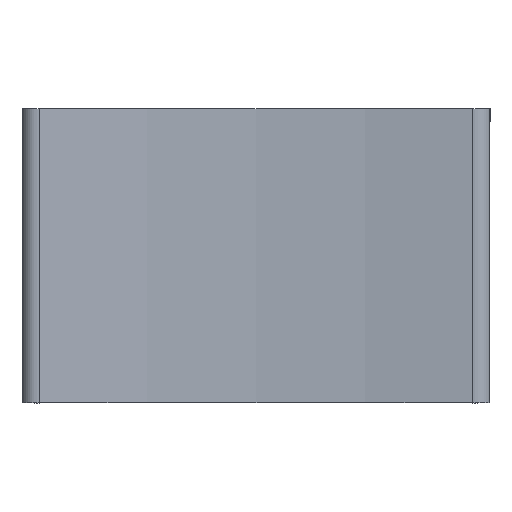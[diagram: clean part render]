
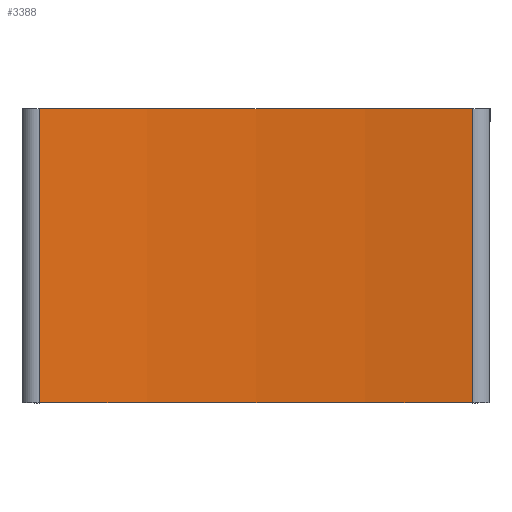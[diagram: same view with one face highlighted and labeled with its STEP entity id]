
A CAD part, top view. The second image highlights one B-rep face of the part: STEP entity #3388.
In plain terms, the highlighted cylindrical face has radius 1799.25 mm (diameter 3598.5 mm), a partial arc.
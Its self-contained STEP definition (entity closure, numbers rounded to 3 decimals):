
#385=CIRCLE('',#3927,1799.248);
#394=CIRCLE('',#3944,1799.248);
#524=CYLINDRICAL_SURFACE('',#3943,1799.248);
#698=FACE_OUTER_BOUND('',#925,.T.);
#925=EDGE_LOOP('',(#2827,#2828,#2829,#2830));
#1136=LINE('',#6737,#1349);
#1147=LINE('',#6767,#1360);
#1349=VECTOR('',#4844,10.);
#1360=VECTOR('',#4877,10.);
#1609=VERTEX_POINT('',#6718);
#1610=VERTEX_POINT('',#6720);
#1617=VERTEX_POINT('',#6736);
#1625=VERTEX_POINT('',#6766);
#2018=EDGE_CURVE('',#1609,#1610,#385,.T.);
#2026=EDGE_CURVE('',#1617,#1610,#1136,.T.);
#2041=EDGE_CURVE('',#1625,#1609,#1147,.T.);
#2042=EDGE_CURVE('',#1625,#1617,#394,.T.);
#2827=ORIENTED_EDGE('',*,*,#2041,.F.);
#2828=ORIENTED_EDGE('',*,*,#2042,.T.);
#2829=ORIENTED_EDGE('',*,*,#2026,.T.);
#2830=ORIENTED_EDGE('',*,*,#2018,.F.);
#3388=ADVANCED_FACE('',(#698),#524,.F.);
#3927=AXIS2_PLACEMENT_3D('',#6721,#4829,#4830);
#3943=AXIS2_PLACEMENT_3D('',#6765,#4875,#4876);
#3944=AXIS2_PLACEMENT_3D('',#6768,#4878,#4879);
#4829=DIRECTION('center_axis',(0.,0.,-1.));
#4830=DIRECTION('ref_axis',(0.157,-0.988,0.));
#4844=DIRECTION('',(0.,0.,1.));
#4875=DIRECTION('center_axis',(0.,0.,1.));
#4876=DIRECTION('ref_axis',(0.157,-0.988,0.));
#4877=DIRECTION('',(0.,0.,1.));
#4878=DIRECTION('center_axis',(0.,0.,-1.));
#4879=DIRECTION('ref_axis',(0.157,-0.988,0.));
#6718=CARTESIAN_POINT('',(-3.131,399.753,191.5));
#6720=CARTESIAN_POINT('',(-567.337,399.753,191.5));
#6721=CARTESIAN_POINT('Origin',(-285.234,2176.748,191.5));
#6736=CARTESIAN_POINT('',(-567.337,399.753,-191.5));
#6737=CARTESIAN_POINT('',(-567.337,399.753,-191.5));
#6765=CARTESIAN_POINT('Origin',(-285.234,2176.748,-191.5));
#6766=CARTESIAN_POINT('',(-3.131,399.753,-191.5));
#6767=CARTESIAN_POINT('',(-3.131,399.753,-191.5));
#6768=CARTESIAN_POINT('Origin',(-285.234,2176.748,-191.5));
